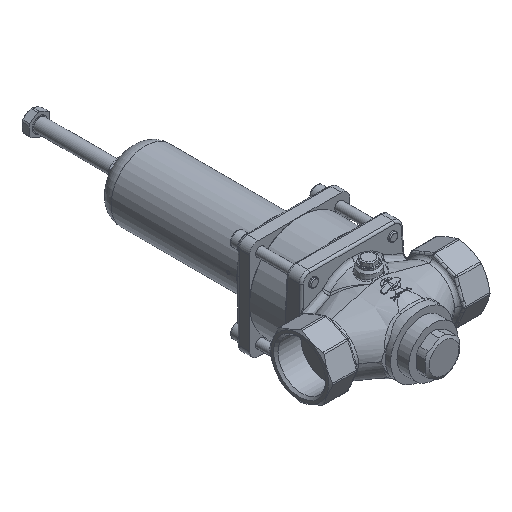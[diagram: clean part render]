
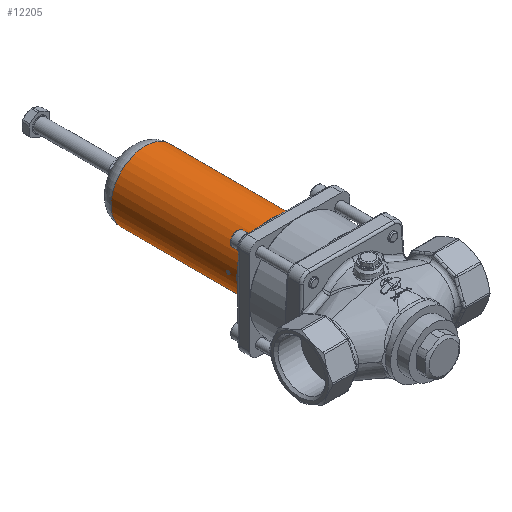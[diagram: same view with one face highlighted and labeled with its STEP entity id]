
A CAD part, isometric view. The second image highlights one B-rep face of the part: STEP entity #12205.
In plain terms, the highlighted cylindrical face has radius 32 mm (diameter 64 mm), a full revolution.
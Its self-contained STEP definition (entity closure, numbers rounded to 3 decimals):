
#134=FACE_BOUND('',#3075,.T.);
#194=CYLINDRICAL_SURFACE('',#13003,32.);
#448=LINE('',#18111,#939);
#939=VECTOR('',#14319,32.);
#1449=B_SPLINE_CURVE_WITH_KNOTS('',3,(#18115,#18116,#18117,#18118,#18119,
#18120,#18121,#18122,#18123,#18124,#18125,#18126,#18127,#18128,#18129,#18130,
#18131,#18132,#18133,#18134,#18135,#18136,#18137,#18138,#18139,#18140,#18141,
#18142,#18143,#18144,#18145,#18146,#18147,#18148),.UNSPECIFIED.,.T.,.F.,
(4,2,2,2,2,2,2,2,2,2,2,2,2,2,2,2,4),(0.,0.057,0.113,
0.17,0.226,0.283,0.339,
0.396,0.452,0.509,0.565,
0.622,0.678,0.735,0.791,
0.848,0.904),.UNSPECIFIED.);
#2344=FACE_OUTER_BOUND('',#3074,.T.);
#3074=EDGE_LOOP('',(#8030,#8031,#8032,#8033,#8034,#8035));
#3075=EDGE_LOOP('',(#8036));
#3900=CIRCLE('',#13004,32.);
#3901=CIRCLE('',#13005,32.);
#3902=CIRCLE('',#13006,32.);
#3903=CIRCLE('',#13007,32.);
#4639=VERTEX_POINT('',#18105);
#4640=VERTEX_POINT('',#18106);
#4641=VERTEX_POINT('',#18108);
#4642=VERTEX_POINT('',#18110);
#4643=VERTEX_POINT('',#18114);
#5978=EDGE_CURVE('',#4639,#4640,#3900,.T.);
#5979=EDGE_CURVE('',#4641,#4639,#3901,.T.);
#5980=EDGE_CURVE('',#4641,#4642,#448,.T.);
#5981=EDGE_CURVE('',#4642,#4642,#3902,.T.);
#5982=EDGE_CURVE('',#4640,#4641,#3903,.T.);
#5983=EDGE_CURVE('',#4643,#4643,#1449,.T.);
#8030=ORIENTED_EDGE('',*,*,#5978,.F.);
#8031=ORIENTED_EDGE('',*,*,#5979,.F.);
#8032=ORIENTED_EDGE('',*,*,#5980,.T.);
#8033=ORIENTED_EDGE('',*,*,#5981,.F.);
#8034=ORIENTED_EDGE('',*,*,#5980,.F.);
#8035=ORIENTED_EDGE('',*,*,#5982,.F.);
#8036=ORIENTED_EDGE('',*,*,#5983,.T.);
#12205=ADVANCED_FACE('',(#2344,#134),#194,.T.);
#13003=AXIS2_PLACEMENT_3D('',#18104,#14313,#14314);
#13004=AXIS2_PLACEMENT_3D('',#18107,#14315,#14316);
#13005=AXIS2_PLACEMENT_3D('',#18109,#14317,#14318);
#13006=AXIS2_PLACEMENT_3D('',#18112,#14320,#14321);
#13007=AXIS2_PLACEMENT_3D('',#18113,#14322,#14323);
#14313=DIRECTION('center_axis',(0.,-1.,0.));
#14314=DIRECTION('ref_axis',(0.,0.,
-1.));
#14315=DIRECTION('center_axis',(0.,-1.,0.));
#14316=DIRECTION('ref_axis',(0.,0.,
1.));
#14317=DIRECTION('center_axis',(0.,-1.,0.));
#14318=DIRECTION('ref_axis',(0.,0.,
1.));
#14319=DIRECTION('',(0.,1.,0.));
#14320=DIRECTION('center_axis',(0.,1.,0.));
#14321=DIRECTION('ref_axis',(0.,0.,
-1.));
#14322=DIRECTION('center_axis',(0.,-1.,0.));
#14323=DIRECTION('ref_axis',(0.,0.,
1.));
#18104=CARTESIAN_POINT('Origin',(0.,166.954,
0.));
#18105=CARTESIAN_POINT('',(0.,102.015,-32.));
#18106=CARTESIAN_POINT('',(32.,102.015,0.));
#18107=CARTESIAN_POINT('Origin',(0.,102.015,0.));
#18108=CARTESIAN_POINT('',(0.,102.015,32.));
#18109=CARTESIAN_POINT('Origin',(0.,102.015,0.));
#18110=CARTESIAN_POINT('',(0.,219.6,32.));
#18111=CARTESIAN_POINT('',(0.,166.954,32.));
#18112=CARTESIAN_POINT('Origin',(0.,219.6,
0.));
#18113=CARTESIAN_POINT('Origin',(0.,102.015,0.));
#18114=CARTESIAN_POINT('',(-31.965,110.,-1.5));
#18115=CARTESIAN_POINT('Ctrl Pts',(-31.965,110.,-1.5));
#18116=CARTESIAN_POINT('Ctrl Pts',(-31.965,110.188,-1.5));
#18117=CARTESIAN_POINT('Ctrl Pts',(-31.967,110.389,-1.462));
#18118=CARTESIAN_POINT('Ctrl Pts',(-31.973,110.759,-1.309));
#18119=CARTESIAN_POINT('Ctrl Pts',(-31.978,110.927,-1.194));
#18120=CARTESIAN_POINT('Ctrl Pts',(-31.987,111.194,-0.927));
#18121=CARTESIAN_POINT('Ctrl Pts',(-31.992,111.309,-0.759));
#18122=CARTESIAN_POINT('Ctrl Pts',(-31.998,111.462,-0.389));
#18123=CARTESIAN_POINT('Ctrl Pts',(-32.,111.5,-0.188));
#18124=CARTESIAN_POINT('Ctrl Pts',(-32.,111.5,0.188));
#18125=CARTESIAN_POINT('Ctrl Pts',(-31.998,111.462,0.389));
#18126=CARTESIAN_POINT('Ctrl Pts',(-31.992,111.309,0.759));
#18127=CARTESIAN_POINT('Ctrl Pts',(-31.987,111.194,0.927));
#18128=CARTESIAN_POINT('Ctrl Pts',(-31.978,110.927,1.194));
#18129=CARTESIAN_POINT('Ctrl Pts',(-31.973,110.759,1.309));
#18130=CARTESIAN_POINT('Ctrl Pts',(-31.967,110.389,1.462));
#18131=CARTESIAN_POINT('Ctrl Pts',(-31.965,110.188,1.5));
#18132=CARTESIAN_POINT('Ctrl Pts',(-31.965,109.812,1.5));
#18133=CARTESIAN_POINT('Ctrl Pts',(-31.967,109.611,1.462));
#18134=CARTESIAN_POINT('Ctrl Pts',(-31.973,109.241,1.309));
#18135=CARTESIAN_POINT('Ctrl Pts',(-31.978,109.073,1.194));
#18136=CARTESIAN_POINT('Ctrl Pts',(-31.987,108.806,0.927));
#18137=CARTESIAN_POINT('Ctrl Pts',(-31.992,108.691,0.759));
#18138=CARTESIAN_POINT('Ctrl Pts',(-31.998,108.538,0.389));
#18139=CARTESIAN_POINT('Ctrl Pts',(-32.,108.5,0.188));
#18140=CARTESIAN_POINT('Ctrl Pts',(-32.,108.5,-0.188));
#18141=CARTESIAN_POINT('Ctrl Pts',(-31.998,108.538,-0.389));
#18142=CARTESIAN_POINT('Ctrl Pts',(-31.992,108.691,-0.759));
#18143=CARTESIAN_POINT('Ctrl Pts',(-31.987,108.806,-0.927));
#18144=CARTESIAN_POINT('Ctrl Pts',(-31.978,109.073,-1.194));
#18145=CARTESIAN_POINT('Ctrl Pts',(-31.973,109.241,-1.309));
#18146=CARTESIAN_POINT('Ctrl Pts',(-31.967,109.611,-1.462));
#18147=CARTESIAN_POINT('Ctrl Pts',(-31.965,109.812,-1.5));
#18148=CARTESIAN_POINT('Ctrl Pts',(-31.965,110.,-1.5));
